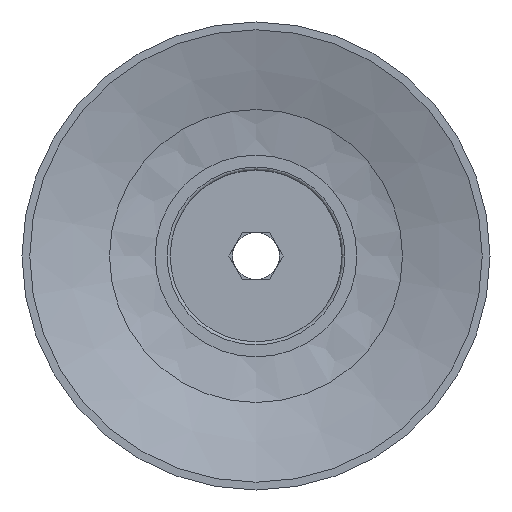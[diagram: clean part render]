
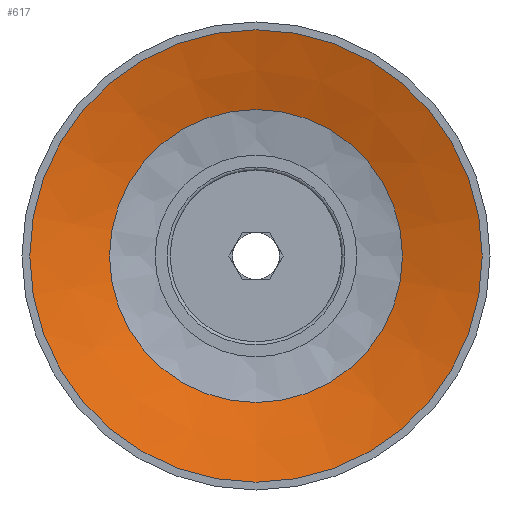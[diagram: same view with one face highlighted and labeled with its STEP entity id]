
A CAD part, front view. The second image highlights one B-rep face of the part: STEP entity #617.
In plain terms, the highlighted conical face has half-angle 73 degrees and reference radius 7.958 mm.
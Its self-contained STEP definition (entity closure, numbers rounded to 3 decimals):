
#617=ADVANCED_FACE('',(#889,#890),#891,.F.);
#889=FACE_BOUND('',#1214,.T.);
#890=FACE_OUTER_BOUND('',#1215,.T.);
#891=CONICAL_SURFACE('',#1216,7.958,1.274);
#1214=EDGE_LOOP('',(#2068));
#1215=EDGE_LOOP('',(#2069));
#1216=AXIS2_PLACEMENT_3D('',#2070,#2071,#2072);
#2068=ORIENTED_EDGE('',*,*,#2450,.T.);
#2069=ORIENTED_EDGE('',*,*,#2451,.T.);
#2070=CARTESIAN_POINT('',(0.0,9.363,0.0));
#2071=DIRECTION('',(-0.0,-1.0,0.));
#2072=DIRECTION('',(0.0,0.,-1.0));
#2450=EDGE_CURVE('',#2844,#2844,#2845,.T.);
#2451=EDGE_CURVE('',#2846,#2846,#2847,.T.);
#2844=VERTEX_POINT('',#3704);
#2845=CIRCLE('',#3705,9.388);
#2846=VERTEX_POINT('',#3706);
#2847=CIRCLE('',#3707,14.5);
#3704=CARTESIAN_POINT('',(0.0,8.926,-9.388));
#3705=AXIS2_PLACEMENT_3D('',#4099,#4100,#4101);
#3706=CARTESIAN_POINT('',(0.0,7.363,-14.5));
#3707=AXIS2_PLACEMENT_3D('',#4102,#4103,#4104);
#4099=CARTESIAN_POINT('',(0.0,8.926,0.0));
#4100=DIRECTION('',(0.0,1.0,0.));
#4101=DIRECTION('',(0.0,0.,-1.0));
#4102=CARTESIAN_POINT('',(0.0,7.363,0.0));
#4103=DIRECTION('',(0.0,-1.0,0.));
#4104=DIRECTION('',(0.0,0.,-1.0));
